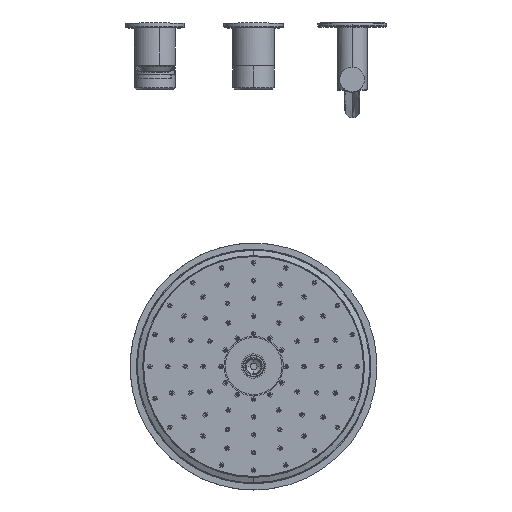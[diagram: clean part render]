
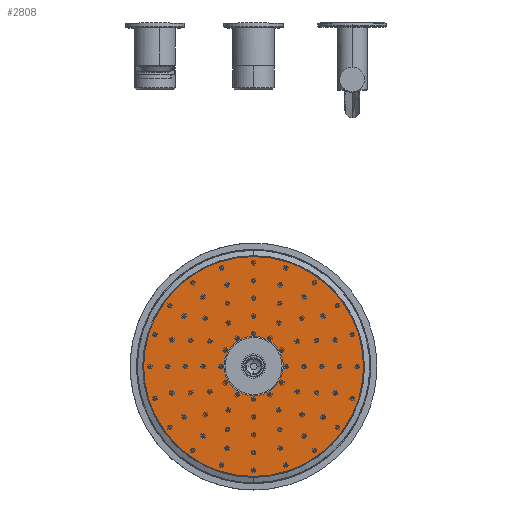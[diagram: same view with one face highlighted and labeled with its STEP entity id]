
A CAD part, top view. The second image highlights one B-rep face of the part: STEP entity #2808.
In plain terms, the highlighted planar face has unit normal (0, 0, 1).
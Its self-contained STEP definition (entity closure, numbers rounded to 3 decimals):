
#1489=FACE_BOUND('',#7473,.T.);
#2808=ADVANCED_FACE('',(#5066,#1489),#31404,.T.);
#5066=FACE_OUTER_BOUND('',#7472,.T.);
#7472=EDGE_LOOP('',(#13274,#13275));
#7473=EDGE_LOOP('',(#13276,#13277));
#13274=ORIENTED_EDGE('',*,*,#21072,.F.);
#13275=ORIENTED_EDGE('',*,*,#21046,.F.);
#13276=ORIENTED_EDGE('',*,*,#21051,.F.);
#13277=ORIENTED_EDGE('',*,*,#21067,.F.);
#21046=EDGE_CURVE('',#29350,#29347,#25115,.T.);
#21051=EDGE_CURVE('',#29356,#29357,#25120,.T.);
#21067=EDGE_CURVE('',#29357,#29356,#25136,.T.);
#21072=EDGE_CURVE('',#29347,#29350,#25141,.T.);
#25115=(
BOUNDED_CURVE()
B_SPLINE_CURVE(3,(#55092,#55093,#55094,#55095),.UNSPECIFIED.,.F.,.F.)
B_SPLINE_CURVE_WITH_KNOTS((4,4),(-673.381,0.),
 .UNSPECIFIED.)
CURVE()
GEOMETRIC_REPRESENTATION_ITEM()
RATIONAL_B_SPLINE_CURVE((1.,0.333,0.333,1.))
REPRESENTATION_ITEM('')
);
#25120=(
BOUNDED_CURVE()
B_SPLINE_CURVE(2,(#55110,#55111,#55112,#55113,#55114),.UNSPECIFIED.,.F.,
 .F.)
B_SPLINE_CURVE_WITH_KNOTS((3,2,3),(1.571,3.142,4.712),
 .UNSPECIFIED.)
CURVE()
GEOMETRIC_REPRESENTATION_ITEM()
RATIONAL_B_SPLINE_CURVE((1.,0.707,1.,0.707,1.))
REPRESENTATION_ITEM('')
);
#25136=(
BOUNDED_CURVE()
B_SPLINE_CURVE(2,(#55168,#55169,#55170,#55171,#55172),.UNSPECIFIED.,.F.,
 .F.)
B_SPLINE_CURVE_WITH_KNOTS((3,2,3),(1.571,3.142,4.712),
 .UNSPECIFIED.)
CURVE()
GEOMETRIC_REPRESENTATION_ITEM()
RATIONAL_B_SPLINE_CURVE((1.,0.707,1.,0.707,1.))
REPRESENTATION_ITEM('')
);
#25141=(
BOUNDED_CURVE()
B_SPLINE_CURVE(3,(#55192,#55193,#55194,#55195),.UNSPECIFIED.,.F.,.F.)
B_SPLINE_CURVE_WITH_KNOTS((4,4),(-673.381,0.),
 .UNSPECIFIED.)
CURVE()
GEOMETRIC_REPRESENTATION_ITEM()
RATIONAL_B_SPLINE_CURVE((1.,0.333,0.333,1.))
REPRESENTATION_ITEM('')
);
#29347=VERTEX_POINT('',#55044);
#29350=VERTEX_POINT('',#55047);
#29356=VERTEX_POINT('',#55053);
#29357=VERTEX_POINT('',#55054);
#31404=PLANE('',#33996);
#33996=AXIS2_PLACEMENT_3D('',#55035,#35390,$);
#35390=DIRECTION('',(0.,0.,1.));
#55035=CARTESIAN_POINT('',(-222.611,-461.31,2412.642));
#55044=CARTESIAN_POINT('',(0.,-461.3,2412.642));
#55047=CARTESIAN_POINT('',(0.,-238.7,2412.642));
#55053=CARTESIAN_POINT('',(0.,-364.1,2412.642));
#55054=CARTESIAN_POINT('',(0.,-335.9,2412.642));
#55092=CARTESIAN_POINT('',(0.,-238.7,2412.642));
#55093=CARTESIAN_POINT('',(222.601,-238.7,2412.642));
#55094=CARTESIAN_POINT('',(222.601,-461.3,2412.642));
#55095=CARTESIAN_POINT('',(0.,-461.3,2412.642));
#55110=CARTESIAN_POINT('',(0.,-364.1,2412.642));
#55111=CARTESIAN_POINT('',(14.1,-364.1,2412.642));
#55112=CARTESIAN_POINT('',(14.1,-350.,2412.642));
#55113=CARTESIAN_POINT('',(14.1,-335.9,2412.642));
#55114=CARTESIAN_POINT('',(0.,-335.9,2412.642));
#55168=CARTESIAN_POINT('',(0.,-335.9,2412.642));
#55169=CARTESIAN_POINT('',(-14.1,-335.9,2412.642));
#55170=CARTESIAN_POINT('',(-14.1,-350.,2412.642));
#55171=CARTESIAN_POINT('',(-14.1,-364.1,2412.642));
#55172=CARTESIAN_POINT('',(0.,-364.1,2412.642));
#55192=CARTESIAN_POINT('',(0.,-461.3,2412.642));
#55193=CARTESIAN_POINT('',(-222.601,-461.3,2412.642));
#55194=CARTESIAN_POINT('',(-222.601,-238.7,2412.642));
#55195=CARTESIAN_POINT('',(0.,-238.7,2412.642));
